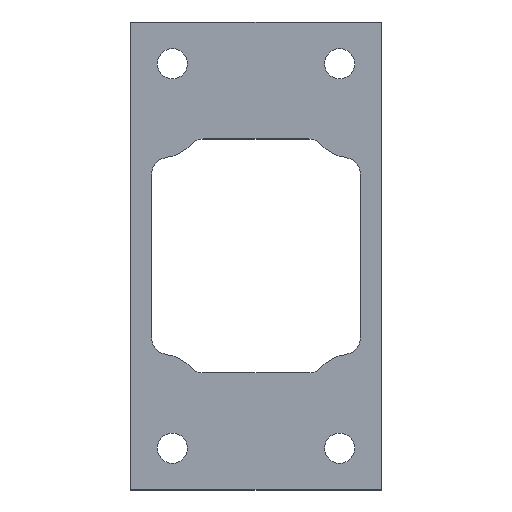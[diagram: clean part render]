
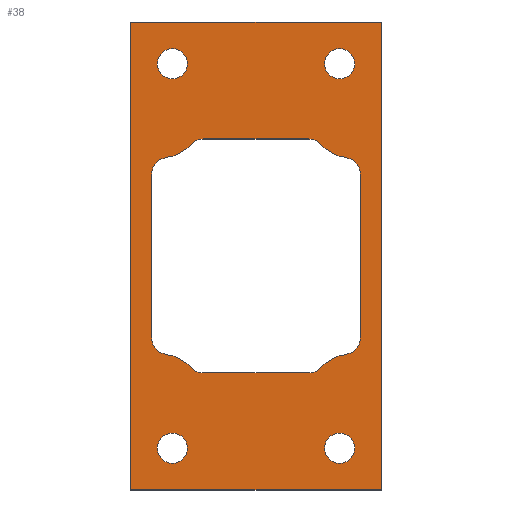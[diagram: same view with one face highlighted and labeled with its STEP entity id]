
A CAD part, top view. The second image highlights one B-rep face of the part: STEP entity #38.
In plain terms, the highlighted planar face has unit normal (0, 0, 1).
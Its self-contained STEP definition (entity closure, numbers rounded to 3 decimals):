
#38=ADVANCED_FACE('',(#98,#99,#100,#101,#102,#68),#316,.T.);
#68=FACE_OUTER_BOUND('',#113,.F.);
#98=FACE_BOUND('',#108,.F.);
#99=FACE_BOUND('',#109,.F.);
#100=FACE_BOUND('',#110,.F.);
#101=FACE_BOUND('',#111,.F.);
#102=FACE_BOUND('',#112,.F.);
#108=EDGE_LOOP('',(#148,#149));
#109=EDGE_LOOP('',(#150,#151));
#110=EDGE_LOOP('',(#152,#153,#154,#155,#156,#157,#158,#159,#160,#161,#162,
#163,#164,#165,#166,#167));
#111=EDGE_LOOP('',(#168,#169));
#112=EDGE_LOOP('',(#170,#171));
#113=EDGE_LOOP('',(#172,#173,#174,#175));
#148=ORIENTED_EDGE('',*,*,#420,.T.);
#149=ORIENTED_EDGE('',*,*,#418,.T.);
#150=ORIENTED_EDGE('',*,*,#428,.T.);
#151=ORIENTED_EDGE('',*,*,#426,.T.);
#152=ORIENTED_EDGE('',*,*,#432,.F.);
#153=ORIENTED_EDGE('',*,*,#434,.T.);
#154=ORIENTED_EDGE('',*,*,#437,.T.);
#155=ORIENTED_EDGE('',*,*,#438,.T.);
#156=ORIENTED_EDGE('',*,*,#440,.F.);
#157=ORIENTED_EDGE('',*,*,#442,.T.);
#158=ORIENTED_EDGE('',*,*,#445,.T.);
#159=ORIENTED_EDGE('',*,*,#446,.T.);
#160=ORIENTED_EDGE('',*,*,#448,.F.);
#161=ORIENTED_EDGE('',*,*,#450,.T.);
#162=ORIENTED_EDGE('',*,*,#453,.T.);
#163=ORIENTED_EDGE('',*,*,#454,.T.);
#164=ORIENTED_EDGE('',*,*,#456,.F.);
#165=ORIENTED_EDGE('',*,*,#458,.T.);
#166=ORIENTED_EDGE('',*,*,#461,.T.);
#167=ORIENTED_EDGE('',*,*,#430,.T.);
#168=ORIENTED_EDGE('',*,*,#424,.T.);
#169=ORIENTED_EDGE('',*,*,#422,.T.);
#170=ORIENTED_EDGE('',*,*,#416,.T.);
#171=ORIENTED_EDGE('',*,*,#414,.T.);
#172=ORIENTED_EDGE('',*,*,#462,.F.);
#173=ORIENTED_EDGE('',*,*,#463,.F.);
#174=ORIENTED_EDGE('',*,*,#464,.F.);
#175=ORIENTED_EDGE('',*,*,#465,.F.);
#316=PLANE('',#719);
#327=LINE('',#1024,#371);
#329=LINE('',#1032,#373);
#331=LINE('',#1040,#375);
#333=LINE('',#1048,#377);
#334=LINE('',#1049,#378);
#335=LINE('',#1050,#379);
#336=LINE('',#1051,#380);
#337=LINE('',#1052,#381);
#371=VECTOR('',#800,9.783);
#373=VECTOR('',#814,6.281);
#375=VECTOR('',#828,9.783);
#377=VECTOR('',#842,6.281);
#378=VECTOR('',#843,15.);
#379=VECTOR('',#844,28.);
#380=VECTOR('',#845,15.);
#381=VECTOR('',#846,28.);
#414=EDGE_CURVE('',#593,#592,#498,.T.);
#416=EDGE_CURVE('',#592,#593,#500,.T.);
#418=EDGE_CURVE('',#589,#588,#502,.T.);
#420=EDGE_CURVE('',#588,#589,#504,.T.);
#422=EDGE_CURVE('',#585,#584,#506,.T.);
#424=EDGE_CURVE('',#584,#585,#508,.T.);
#426=EDGE_CURVE('',#581,#580,#510,.T.);
#428=EDGE_CURVE('',#580,#581,#512,.T.);
#430=EDGE_CURVE('',#577,#576,#514,.T.);
#432=EDGE_CURVE('',#573,#576,#516,.T.);
#434=EDGE_CURVE('',#573,#571,#518,.T.);
#437=EDGE_CURVE('',#571,#568,#327,.T.);
#438=EDGE_CURVE('',#568,#567,#520,.T.);
#440=EDGE_CURVE('',#565,#567,#522,.T.);
#442=EDGE_CURVE('',#565,#563,#524,.T.);
#445=EDGE_CURVE('',#563,#560,#329,.T.);
#446=EDGE_CURVE('',#560,#559,#526,.T.);
#448=EDGE_CURVE('',#557,#559,#528,.T.);
#450=EDGE_CURVE('',#557,#555,#530,.T.);
#453=EDGE_CURVE('',#555,#552,#331,.T.);
#454=EDGE_CURVE('',#552,#551,#532,.T.);
#456=EDGE_CURVE('',#549,#551,#534,.T.);
#458=EDGE_CURVE('',#549,#547,#536,.T.);
#461=EDGE_CURVE('',#547,#577,#333,.T.);
#462=EDGE_CURVE('',#545,#544,#334,.T.);
#463=EDGE_CURVE('',#543,#545,#335,.T.);
#464=EDGE_CURVE('',#542,#543,#336,.T.);
#465=EDGE_CURVE('',#544,#542,#337,.T.);
#498=CIRCLE('',#679,0.9);
#500=CIRCLE('',#681,0.9);
#502=CIRCLE('',#683,0.9);
#504=CIRCLE('',#685,0.9);
#506=CIRCLE('',#687,0.9);
#508=CIRCLE('',#689,0.9);
#510=CIRCLE('',#691,0.9);
#512=CIRCLE('',#693,0.9);
#514=CIRCLE('',#695,1.);
#516=CIRCLE('',#697,2.65);
#518=CIRCLE('',#699,1.);
#520=CIRCLE('',#701,1.);
#522=CIRCLE('',#703,2.65);
#524=CIRCLE('',#705,1.);
#526=CIRCLE('',#707,1.);
#528=CIRCLE('',#709,2.65);
#530=CIRCLE('',#711,1.);
#532=CIRCLE('',#713,1.);
#534=CIRCLE('',#715,2.65);
#536=CIRCLE('',#717,1.);
#542=VERTEX_POINT('',#949);
#543=VERTEX_POINT('',#950);
#544=VERTEX_POINT('',#951);
#545=VERTEX_POINT('',#952);
#547=VERTEX_POINT('',#954);
#549=VERTEX_POINT('',#956);
#551=VERTEX_POINT('',#958);
#552=VERTEX_POINT('',#959);
#555=VERTEX_POINT('',#962);
#557=VERTEX_POINT('',#964);
#559=VERTEX_POINT('',#966);
#560=VERTEX_POINT('',#967);
#563=VERTEX_POINT('',#970);
#565=VERTEX_POINT('',#972);
#567=VERTEX_POINT('',#974);
#568=VERTEX_POINT('',#975);
#571=VERTEX_POINT('',#978);
#573=VERTEX_POINT('',#980);
#576=VERTEX_POINT('',#983);
#577=VERTEX_POINT('',#984);
#580=VERTEX_POINT('',#987);
#581=VERTEX_POINT('',#988);
#584=VERTEX_POINT('',#991);
#585=VERTEX_POINT('',#992);
#588=VERTEX_POINT('',#995);
#589=VERTEX_POINT('',#996);
#592=VERTEX_POINT('',#999);
#593=VERTEX_POINT('',#1000);
#679=AXIS2_PLACEMENT_3D('',#1001,#755,#756);
#681=AXIS2_PLACEMENT_3D('',#1003,#759,#760);
#683=AXIS2_PLACEMENT_3D('',#1005,#763,#764);
#685=AXIS2_PLACEMENT_3D('',#1007,#767,#768);
#687=AXIS2_PLACEMENT_3D('',#1009,#771,#772);
#689=AXIS2_PLACEMENT_3D('',#1011,#775,#776);
#691=AXIS2_PLACEMENT_3D('',#1013,#779,#780);
#693=AXIS2_PLACEMENT_3D('',#1015,#783,#784);
#695=AXIS2_PLACEMENT_3D('',#1017,#787,#788);
#697=AXIS2_PLACEMENT_3D('',#1019,#791,#792);
#699=AXIS2_PLACEMENT_3D('',#1021,#795,#796);
#701=AXIS2_PLACEMENT_3D('',#1025,#801,#802);
#703=AXIS2_PLACEMENT_3D('',#1027,#805,#806);
#705=AXIS2_PLACEMENT_3D('',#1029,#809,#810);
#707=AXIS2_PLACEMENT_3D('',#1033,#815,#816);
#709=AXIS2_PLACEMENT_3D('',#1035,#819,#820);
#711=AXIS2_PLACEMENT_3D('',#1037,#823,#824);
#713=AXIS2_PLACEMENT_3D('',#1041,#829,#830);
#715=AXIS2_PLACEMENT_3D('',#1043,#833,#834);
#717=AXIS2_PLACEMENT_3D('',#1045,#837,#838);
#719=AXIS2_PLACEMENT_3D('',#1085,#879,#880);
#755=DIRECTION('',(0.,0.,1.));
#756=DIRECTION('',(1.,0.,0.));
#759=DIRECTION('',(0.,0.,1.));
#760=DIRECTION('',(-1.,0.,0.));
#763=DIRECTION('',(0.,0.,1.));
#764=DIRECTION('',(1.,0.,0.));
#767=DIRECTION('',(0.,0.,1.));
#768=DIRECTION('',(-1.,0.,0.));
#771=DIRECTION('',(0.,0.,1.));
#772=DIRECTION('',(1.,0.,0.));
#775=DIRECTION('',(0.,0.,1.));
#776=DIRECTION('',(-1.,0.,0.));
#779=DIRECTION('',(0.,0.,1.));
#780=DIRECTION('',(1.,0.,0.));
#783=DIRECTION('',(0.,0.,1.));
#784=DIRECTION('',(-1.,0.,0.));
#787=DIRECTION('',(0.,0.,1.));
#788=DIRECTION('',(0.,-1.,0.));
#791=DIRECTION('',(0.,0.,1.));
#792=DIRECTION('',(-0.151,0.989,0.));
#795=DIRECTION('',(0.,0.,1.));
#796=DIRECTION('',(0.151,-0.989,0.));
#800=DIRECTION('',(0.,1.,0.));
#801=DIRECTION('',(0.,0.,1.));
#802=DIRECTION('',(1.,0.,0.));
#805=DIRECTION('',(0.,0.,1.));
#806=DIRECTION('',(-0.729,-0.685,0.));
#809=DIRECTION('',(0.,0.,1.));
#810=DIRECTION('',(0.729,0.685,0.));
#814=DIRECTION('',(-1.,0.,0.));
#815=DIRECTION('',(0.,0.,1.));
#816=DIRECTION('',(0.,1.,0.));
#819=DIRECTION('',(0.,0.,1.));
#820=DIRECTION('',(0.151,-0.989,0.));
#823=DIRECTION('',(0.,0.,1.));
#824=DIRECTION('',(-0.151,0.989,0.));
#828=DIRECTION('',(0.,-1.,0.));
#829=DIRECTION('',(0.,0.,1.));
#830=DIRECTION('',(-1.,0.,0.));
#833=DIRECTION('',(0.,0.,1.));
#834=DIRECTION('',(0.729,0.685,0.));
#837=DIRECTION('',(0.,0.,1.));
#838=DIRECTION('',(-0.729,-0.685,0.));
#842=DIRECTION('',(1.,0.,0.));
#843=DIRECTION('',(-1.,0.,0.));
#844=DIRECTION('',(0.,1.,0.));
#845=DIRECTION('',(1.,0.,0.));
#846=DIRECTION('',(0.,-1.,0.));
#879=DIRECTION('',(0.,0.,1.));
#880=DIRECTION('',(1.,0.,0.));
#949=CARTESIAN_POINT('',(12.5,-14.,0.05));
#950=CARTESIAN_POINT('',(27.5,-14.,0.05));
#951=CARTESIAN_POINT('',(12.5,14.,0.05));
#952=CARTESIAN_POINT('',(27.5,14.,0.05));
#954=CARTESIAN_POINT('',(16.859,-7.,0.05));
#956=CARTESIAN_POINT('',(16.131,-6.685,0.05));
#958=CARTESIAN_POINT('',(14.599,-5.88,0.05));
#959=CARTESIAN_POINT('',(13.75,-4.892,0.05));
#962=CARTESIAN_POINT('',(13.75,4.892,0.05));
#964=CARTESIAN_POINT('',(14.599,5.88,0.05));
#966=CARTESIAN_POINT('',(16.131,6.685,0.05));
#967=CARTESIAN_POINT('',(16.859,7.,0.05));
#970=CARTESIAN_POINT('',(23.141,7.,0.05));
#972=CARTESIAN_POINT('',(23.869,6.685,0.05));
#974=CARTESIAN_POINT('',(25.401,5.88,0.05));
#975=CARTESIAN_POINT('',(26.25,4.892,0.05));
#978=CARTESIAN_POINT('',(26.25,-4.892,0.05));
#980=CARTESIAN_POINT('',(25.401,-5.88,0.05));
#983=CARTESIAN_POINT('',(23.869,-6.685,0.05));
#984=CARTESIAN_POINT('',(23.141,-7.,0.05));
#987=CARTESIAN_POINT('',(24.1,11.5,0.05));
#988=CARTESIAN_POINT('',(25.9,11.5,0.05));
#991=CARTESIAN_POINT('',(14.1,11.5,0.05));
#992=CARTESIAN_POINT('',(15.9,11.5,0.05));
#995=CARTESIAN_POINT('',(14.1,-11.5,0.05));
#996=CARTESIAN_POINT('',(15.9,-11.5,0.05));
#999=CARTESIAN_POINT('',(24.1,-11.5,0.05));
#1000=CARTESIAN_POINT('',(25.9,-11.5,0.05));
#1001=CARTESIAN_POINT('',(25.,-11.5,0.05));
#1003=CARTESIAN_POINT('',(25.,-11.5,0.05));
#1005=CARTESIAN_POINT('',(15.,-11.5,0.05));
#1007=CARTESIAN_POINT('',(15.,-11.5,0.05));
#1009=CARTESIAN_POINT('',(15.,11.5,0.05));
#1011=CARTESIAN_POINT('',(15.,11.5,0.05));
#1013=CARTESIAN_POINT('',(25.,11.5,0.05));
#1015=CARTESIAN_POINT('',(25.,11.5,0.05));
#1017=CARTESIAN_POINT('',(23.141,-6.,0.05));
#1019=CARTESIAN_POINT('',(25.8,-8.5,0.05));
#1021=CARTESIAN_POINT('',(25.25,-4.892,0.05));
#1024=CARTESIAN_POINT('',(26.25,-4.892,0.05));
#1025=CARTESIAN_POINT('',(25.25,4.892,0.05));
#1027=CARTESIAN_POINT('',(25.8,8.5,0.05));
#1029=CARTESIAN_POINT('',(23.141,6.,0.05));
#1032=CARTESIAN_POINT('',(23.141,7.,0.05));
#1033=CARTESIAN_POINT('',(16.859,6.,0.05));
#1035=CARTESIAN_POINT('',(14.2,8.5,0.05));
#1037=CARTESIAN_POINT('',(14.75,4.892,0.05));
#1040=CARTESIAN_POINT('',(13.75,4.892,0.05));
#1041=CARTESIAN_POINT('',(14.75,-4.892,0.05));
#1043=CARTESIAN_POINT('',(14.2,-8.5,0.05));
#1045=CARTESIAN_POINT('',(16.859,-6.,0.05));
#1048=CARTESIAN_POINT('',(16.859,-7.,0.05));
#1049=CARTESIAN_POINT('',(27.5,14.,0.05));
#1050=CARTESIAN_POINT('',(27.5,-14.,0.05));
#1051=CARTESIAN_POINT('',(12.5,-14.,0.05));
#1052=CARTESIAN_POINT('',(12.5,14.,0.05));
#1085=CARTESIAN_POINT('',(12.22,-14.28,0.05));
